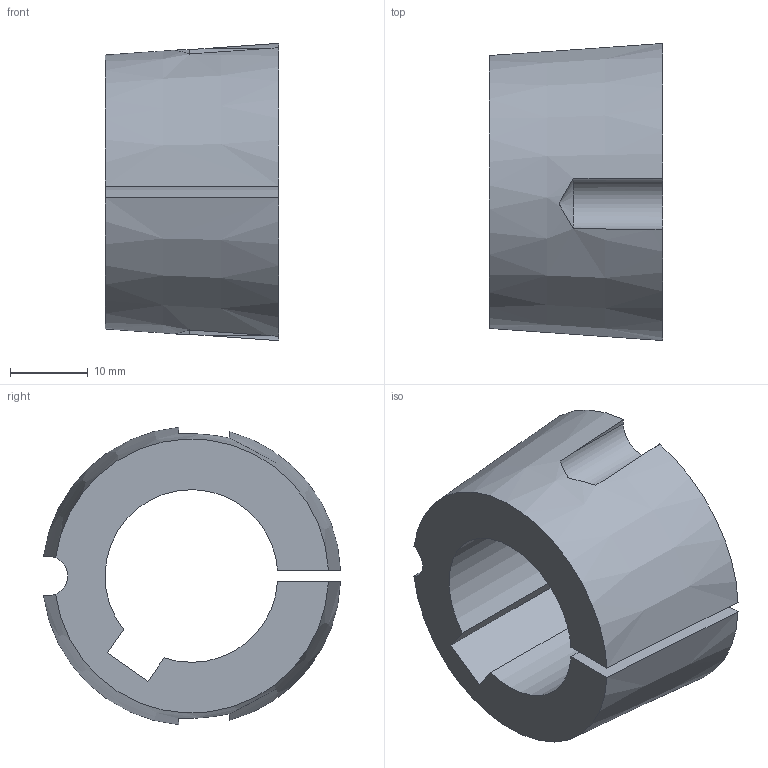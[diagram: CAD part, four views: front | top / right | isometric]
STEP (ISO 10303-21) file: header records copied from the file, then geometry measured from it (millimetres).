
FILE_DESCRIPTION( ( '' ), '1' );
FILE_NAME( 'C:/Users/StangenbergN/Desktop/06.02.2019_steps/6225022222.stp', '2019-02-06T19:54:30', ( '' ), ( '' ), ' ', ' ', ' ' );
FILE_SCHEMA( ( 'CONFIG_CONTROL_DESIGN' ) );
Length unit declared in the file: millimetre
Products named in the file (1): 1
Bounding box: 22.3 x 38.22 x 38.26 mm (x, y, z)
Volume: 13762.9 mm3; surface area: 5962.7 mm2
Topology: 1 solids, 1 shells, 22 faces, 60 edges, 40 vertices
Faces by surface type: cylinder 11, plane 7, cone 4
Entity records: 834 total; most frequent: CARTESIAN_POINT 235, ORIENTED_EDGE 120, DIRECTION 116, EDGE_CURVE 60, AXIS2_PLACEMENT_3D 47, VERTEX_POINT 40, CIRCLE 24, ADVANCED_FACE 22
